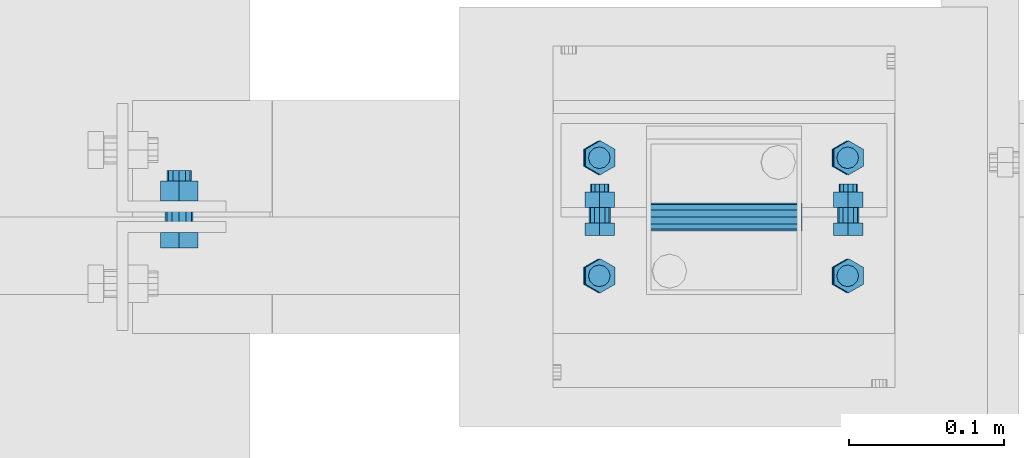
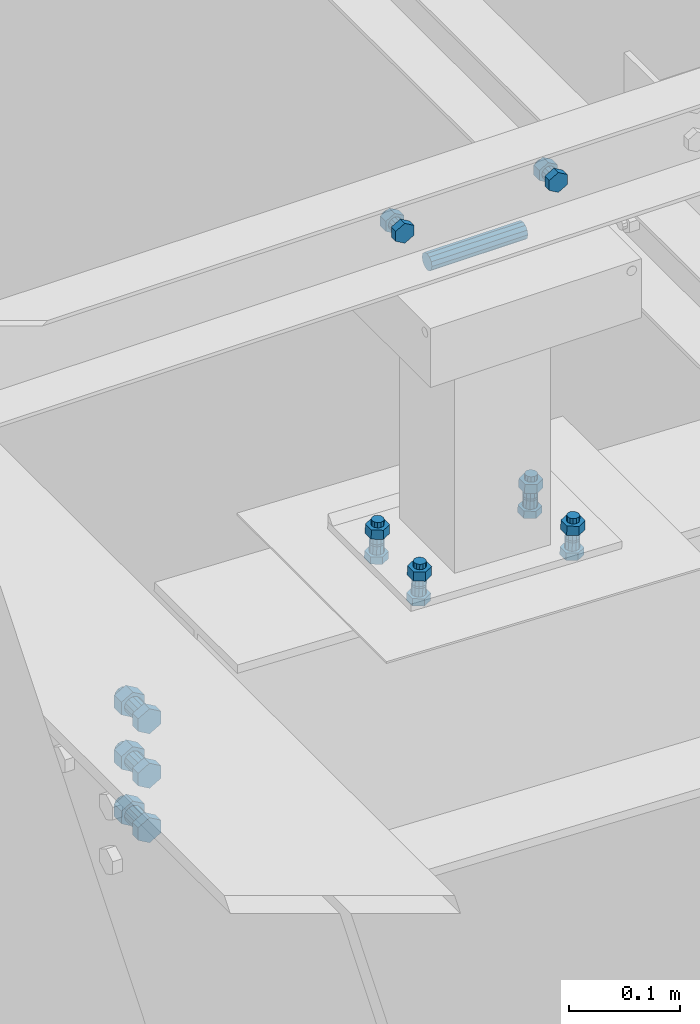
# One storey, part 168 of 3134: 5 mechanical fasteners, 3 elements without a shape of their own.
"""IFC2X3 building model written with IfcOpenShell, lengths in millimetres."""

from ifc_helpers import new_model, si_unit, frame, origin_with_axes, place, context, subcontext, project, spatial, faceted_brep, source, transform, mapped, material, type_object, element, aggregate, save


model = new_model("IFC2X3")

# Units and contexts
model_context = context("Model", 3, precision=1e-05, world=origin_with_axes())
body_context = subcontext(model_context, "Body", "Model", "MODEL_VIEW")
ifc_project = project(units=[si_unit("LENGTHUNIT", "METRE", prefix="MILLI"), si_unit("AREAUNIT", "SQUARE_METRE"), si_unit("VOLUMEUNIT", "CUBIC_METRE"), si_unit("MASSUNIT", "GRAM", prefix="KILO"), si_unit("TIMEUNIT", "SECOND"), si_unit("PLANEANGLEUNIT", "RADIAN"), si_unit("SOLIDANGLEUNIT", "STERADIAN"), si_unit("THERMODYNAMICTEMPERATUREUNIT", "DEGREE_CELSIUS"), si_unit("LUMINOUSINTENSITYUNIT", "LUMEN")], contexts=[model_context])

# Site, building, storey
site_placement = place(None, origin_with_axes())
site = spatial("IfcSite", under=ifc_project, at=site_placement, CompositionType="ELEMENT")
building_placement = place(site_placement, origin_with_axes())
building = spatial("IfcBuilding", under=site, at=building_placement, Name="Undefined", CompositionType="ELEMENT")
storey_placement = place(building_placement, origin_with_axes())
storey = spatial("IfcBuildingStorey", under=building, at=storey_placement, Name="Undefined", CompositionType="ELEMENT", Elevation=0.0)

# Assembly, mechanical fastener
assembly_1_placement = place(storey_placement, origin_with_axes())
assembly_1 = element("IfcElementAssembly", 1, at=assembly_1_placement, inside=storey, AssemblyPlace="NOTDEFINED", PredefinedType="RIGID_FRAME")
ifc_material = material(Name="8.8")
mechanical_fastener_type = type_object("IfcMechanicalFastenerType", Name="Bolt assembly")
shared_shape_1 = source(origin_with_axes(), body_context, "Body", "Brep", [
    faceted_brep([(13.856406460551, -20.0400000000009, 0.0), (6.92820323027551, -20.0400000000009, 12.0), (-6.92820323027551, -20.0400000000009, 12.0), (-13.856406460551, -20.0400000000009, 1.69692038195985e-15), (-6.92820323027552, -20.0400000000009, -12.0), (6.9282032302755, -20.0400000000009, -12.0), (6.9282032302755, -10.0400000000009, -12.0), (-6.92820323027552, -10.0400000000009, -12.0), (-13.856406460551, -10.0400000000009, 1.69692038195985e-15), (-6.92820323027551, -10.0400000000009, 12.0), (6.92820323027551, -10.0400000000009, 12.0), (13.856406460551, -10.0400000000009, 0.0), (8.0, -10.0400000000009, 0.0), (6.92820323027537, -10.0400000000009, 4.00000000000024), (3.99999999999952, -10.0400000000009, 6.92820323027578), (-8.29068785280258e-13, -10.0400000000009, 8.0), (-4.00000000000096, -10.0400000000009, 6.92820323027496), (-6.9282032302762, -10.0400000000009, 3.99999999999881), (-8.0, -10.0400000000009, -1.65813757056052e-12), (-6.92820323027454, -10.0400000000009, -4.00000000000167), (-3.99999999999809, -10.0400000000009, -6.92820323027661), (2.47832457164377e-12, -10.0400000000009, -8.0), (4.00000000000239, -10.0400000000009, -6.92820323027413), (6.92820323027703, -10.0400000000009, -3.99999999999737), (6.92820323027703, 29.9599999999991, -3.99999999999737), (4.00000000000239, 29.9599999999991, -6.92820323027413), (2.47832457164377e-12, 29.9599999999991, -8.0), (-3.99999999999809, 29.9599999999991, -6.92820323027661), (-6.92820323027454, 29.9599999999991, -4.00000000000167), (-8.0, 29.9599999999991, -1.65813757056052e-12), (-6.9282032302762, 29.9599999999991, 3.99999999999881), (-4.00000000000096, 29.9599999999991, 6.92820323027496), (-8.29068785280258e-13, 29.9599999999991, 8.0), (3.99999999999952, 29.9599999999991, 6.92820323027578), (6.92820323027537, 29.9599999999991, 4.00000000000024), (8.0, 29.9599999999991, 0.0), (13.856406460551, 10.0400000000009, 0.0), (6.92820323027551, 10.0400000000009, 12.0), (-6.92820323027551, 10.0400000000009, 12.0), (-13.856406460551, 10.0400000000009, 1.69692038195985e-15), (-6.92820323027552, 10.0400000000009, -12.0), (6.9282032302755, 10.0400000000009, -12.0), (6.9282032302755, 23.0400000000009, -12.0), (-6.92820323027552, 23.0400000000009, -12.0), (-13.856406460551, 23.0400000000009, 1.69692038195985e-15), (-6.92820323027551, 23.0400000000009, 12.0), (6.92820323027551, 23.0400000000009, 12.0), (13.856406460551, 23.0400000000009, 0.0)], [[[0, 1, 2, 3, 4, 5]], [[6, 7, 8, 9, 10, 11]], [[0, 11, 10, 1]], [[1, 10, 9, 2]], [[2, 9, 8, 3]], [[3, 8, 7, 4]], [[4, 7, 6, 5]], [[5, 6, 11, 0]], [[12, 13, 14, 15, 16, 17, 18, 19, 20, 21, 22, 23]], [[24, 25, 26, 27, 28, 29, 30, 31, 32, 33, 34, 35]], [[12, 35, 34, 13]], [[13, 34, 33, 14]], [[14, 33, 32, 15]], [[15, 32, 31, 16]], [[16, 31, 30, 17]], [[17, 30, 29, 18]], [[18, 29, 28, 19]], [[19, 28, 27, 20]], [[20, 27, 26, 21]], [[21, 26, 25, 22]], [[22, 25, 24, 23]], [[23, 24, 35, 12]], [[36, 37, 38, 39, 40, 41]], [[42, 43, 44, 45, 46, 47]], [[36, 47, 46, 37]], [[37, 46, 45, 38]], [[38, 45, 44, 39]], [[39, 44, 43, 40]], [[40, 43, 42, 41]], [[41, 42, 47, 36]]]),
    faceted_brep([(9.0, -3.04999995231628, 0.0), (7.79422863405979, -3.04999995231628, 4.50000000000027), (4.49999999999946, -3.04999995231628, 7.79422863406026), (-9.3270238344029e-13, -3.04999995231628, 9.0), (-4.50000000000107, -3.04999995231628, 7.79422863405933), (-7.79422863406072, -3.04999995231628, 4.49999999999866), (-9.0, -3.04999995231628, -1.86540476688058e-12), (-7.79422863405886, -3.04999995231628, -4.50000000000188), (-4.49999999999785, -3.04999995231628, -7.79422863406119), (2.78811514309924e-12, -3.04999995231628, -9.0), (4.50000000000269, -3.04999995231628, -7.7942286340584), (7.79422863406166, -3.04999995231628, -4.49999999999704), (7.79422863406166, 3.04999995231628, -4.49999999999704), (4.50000000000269, 3.04999995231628, -7.7942286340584), (2.78811514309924e-12, 3.04999995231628, -9.0), (-4.49999999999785, 3.04999995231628, -7.79422863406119), (-7.79422863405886, 3.04999995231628, -4.50000000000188), (-9.0, 3.04999995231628, -1.86540476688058e-12), (-7.79422863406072, 3.04999995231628, 4.49999999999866), (-4.50000000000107, 3.04999995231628, 7.79422863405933), (-9.3270238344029e-13, 3.04999995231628, 9.0), (4.49999999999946, 3.04999995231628, 7.79422863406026), (7.79422863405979, 3.04999995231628, 4.50000000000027), (9.0, 3.04999995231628, 0.0), (9.0, -9.94000000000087, 0.0), (7.79422863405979, -9.94000000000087, 4.50000000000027), (4.49999999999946, -9.94000000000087, 7.79422863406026), (-9.3270238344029e-13, -9.94000000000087, 9.0), (-4.50000000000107, -9.94000000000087, 7.79422863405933), (-7.79422863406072, -9.94000000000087, 4.49999999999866), (-9.0, -9.94000000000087, -1.86540476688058e-12), (-7.79422863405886, -9.94000000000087, -4.50000000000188), (-4.49999999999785, -9.94000000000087, -7.79422863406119), (2.78811514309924e-12, -9.94000000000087, -9.0), (4.50000000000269, -9.94000000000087, -7.7942286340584), (7.79422863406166, -9.94000000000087, -4.49999999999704), (7.79422863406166, -2.94000000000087, -4.49999999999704), (4.50000000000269, -2.94000000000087, -7.7942286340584), (2.78811514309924e-12, -2.94000000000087, -9.0), (-4.49999999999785, -2.94000000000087, -7.79422863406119), (-7.79422863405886, -2.94000000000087, -4.50000000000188), (-9.0, -2.94000000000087, -1.86540476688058e-12), (-7.79422863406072, -2.94000000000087, 4.49999999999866), (-4.50000000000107, -2.94000000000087, 7.79422863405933), (-9.3270238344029e-13, -2.94000000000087, 9.0), (4.49999999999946, -2.94000000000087, 7.79422863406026), (7.79422863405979, -2.94000000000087, 4.50000000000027), (9.0, -2.94000000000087, 0.0), (9.0, 2.94000000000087, 0.0), (7.79422863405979, 2.94000000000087, 4.50000000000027), (4.49999999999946, 2.94000000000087, 7.79422863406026), (-9.3270238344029e-13, 2.94000000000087, 9.0), (-4.50000000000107, 2.94000000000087, 7.79422863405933), (-7.79422863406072, 2.94000000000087, 4.49999999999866), (-9.0, 2.94000000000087, -1.86540476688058e-12), (-7.79422863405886, 2.94000000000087, -4.50000000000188), (-4.49999999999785, 2.94000000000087, -7.79422863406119), (2.78811514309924e-12, 2.94000000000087, -9.0), (4.50000000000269, 2.94000000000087, -7.7942286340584), (7.79422863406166, 2.94000000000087, -4.49999999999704), (7.79422863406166, 10.0400000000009, -4.49999999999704), (4.50000000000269, 10.0400000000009, -7.7942286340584), (2.78811514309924e-12, 10.0400000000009, -9.0), (-4.49999999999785, 10.0400000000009, -7.79422863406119), (-7.79422863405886, 10.0400000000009, -4.50000000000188), (-9.0, 10.0400000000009, -1.86540476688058e-12), (-7.79422863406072, 10.0400000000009, 4.49999999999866), (-4.50000000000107, 10.0400000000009, 7.79422863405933), (-9.3270238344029e-13, 10.0400000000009, 9.0), (4.49999999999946, 10.0400000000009, 7.79422863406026), (7.79422863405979, 10.0400000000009, 4.50000000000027), (9.0, 10.0400000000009, 0.0)], [[[0, 1, 2, 3, 4, 5, 6, 7, 8, 9, 10, 11]], [[12, 13, 14, 15, 16, 17, 18, 19, 20, 21, 22, 23]], [[0, 23, 22, 1]], [[1, 22, 21, 2]], [[2, 21, 20, 3]], [[3, 20, 19, 4]], [[4, 19, 18, 5]], [[5, 18, 17, 6]], [[6, 17, 16, 7]], [[7, 16, 15, 8]], [[8, 15, 14, 9]], [[9, 14, 13, 10]], [[10, 13, 12, 11]], [[11, 12, 23, 0]], [[24, 25, 26, 27, 28, 29, 30, 31, 32, 33, 34, 35]], [[36, 37, 38, 39, 40, 41, 42, 43, 44, 45, 46, 47]], [[24, 47, 46, 25]], [[25, 46, 45, 26]], [[26, 45, 44, 27]], [[27, 44, 43, 28]], [[28, 43, 42, 29]], [[29, 42, 41, 30]], [[30, 41, 40, 31]], [[31, 40, 39, 32]], [[32, 39, 38, 33]], [[33, 38, 37, 34]], [[34, 37, 36, 35]], [[35, 36, 47, 24]], [[48, 49, 50, 51, 52, 53, 54, 55, 56, 57, 58, 59]], [[60, 61, 62, 63, 64, 65, 66, 67, 68, 69, 70, 71]], [[48, 71, 70, 49]], [[49, 70, 69, 50]], [[50, 69, 68, 51]], [[51, 68, 67, 52]], [[52, 67, 66, 53]], [[53, 66, 65, 54]], [[54, 65, 64, 55]], [[55, 64, 63, 56]], [[56, 63, 62, 57]], [[57, 62, 61, 58]], [[58, 61, 60, 59]], [[59, 60, 71, 48]]]),
])
mechanical_fastener_1_placement = place(assembly_1_placement, frame((44.2936480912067, 37581.25, 3841.86727512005), z_axis=(-1.0, 0.0, 0.0), x_axis=(0.0, 0.0, 1.0)))
mechanical_fastener_1 = element("IfcMechanicalFastener", 2, at=mechanical_fastener_1_placement, type_object=mechanical_fastener_type, material=ifc_material, Name="Bolt assembly", NominalDiameter=16.0, NominalLength=40.0, context=body_context, shape_type="MappedRepresentation", body=[
    mapped(shared_shape_1, transform((0.0, 0.0, 0.0))),
    mapped(shared_shape_1, transform((59.9999999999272, 0.0, 5.40239852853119e-10))),
    mapped(shared_shape_1, transform((120.0, 0.0, 0.0))),
])
aggregate(assembly_1, [mechanical_fastener_1])

assembly_2_placement = place(storey_placement, origin_with_axes())
assembly_2 = element("IfcElementAssembly", 3, at=assembly_2_placement, inside=storey, AssemblyPlace="NOTDEFINED", PredefinedType="RIGID_FRAME")
shared_shape_2 = source(origin_with_axes(), body_context, "Body", "Brep", [
    faceted_brep([(10.9696551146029, -4.19432770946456, 0.0), (5.48482755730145, -4.19432770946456, 9.5), (-5.48482755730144, -4.19432770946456, 9.5), (-10.9696551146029, -4.19432770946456, 1.34339530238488e-15), (-5.48482755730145, -4.19432770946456, -9.5), (5.48482755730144, -4.19432770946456, -9.50000000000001), (5.48482755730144, 3.80567229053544, -9.50000000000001), (-5.48482755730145, 3.80567229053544, -9.5), (-10.9696551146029, 3.80567229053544, 1.34339530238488e-15), (-5.48482755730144, 3.80567229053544, 9.5), (5.48482755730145, 3.80567229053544, 9.5), (10.9696551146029, 3.80567229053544, 0.0), (6.0, 3.80567229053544, 0.0), (5.19615242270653, 3.80567229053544, 3.00000000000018), (2.99999999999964, 3.80567229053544, 5.19615242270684), (-6.21801588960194e-13, 3.80567229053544, 6.0), (-3.00000000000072, 3.80567229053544, 5.19615242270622), (-5.19615242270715, 3.80567229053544, 2.9999999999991), (-6.0, 3.80567229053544, -1.24360317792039e-12), (-5.19615242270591, 3.80567229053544, -3.00000000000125), (-2.99999999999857, 3.80567229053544, -5.19615242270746), (1.85874342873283e-12, 3.80567229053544, -6.0), (3.00000000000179, 3.80567229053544, -5.1961524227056), (5.19615242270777, 3.80567229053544, -2.99999999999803), (5.19615242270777, 38.8056722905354, -2.99999999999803), (3.00000000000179, 38.8056722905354, -5.1961524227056), (1.85874342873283e-12, 38.8056722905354, -6.0), (-2.99999999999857, 38.8056722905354, -5.19615242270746), (-5.19615242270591, 38.8056722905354, -3.00000000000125), (-6.0, 38.8056722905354, -1.24360317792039e-12), (-5.19615242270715, 38.8056722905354, 2.9999999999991), (-3.00000000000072, 38.8056722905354, 5.19615242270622), (-6.21801588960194e-13, 38.8056722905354, 6.0), (2.99999999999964, 38.8056722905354, 5.19615242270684), (5.19615242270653, 38.8056722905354, 3.00000000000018), (6.0, 38.8056722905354, 0.0), (10.9696551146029, 23.0139082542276, 0.0), (5.48482755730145, 23.0139082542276, 9.5), (-5.48482755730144, 23.0139082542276, 9.5), (-10.9696551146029, 23.0139082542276, 1.34339530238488e-15), (-5.48482755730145, 23.0139082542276, -9.5), (5.48482755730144, 23.0139082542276, -9.50000000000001), (5.48482755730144, 33.0139082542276, -9.50000000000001), (-5.48482755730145, 33.0139082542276, -9.5), (-10.9696551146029, 33.0139082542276, 1.34339530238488e-15), (-5.48482755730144, 33.0139082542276, 9.5), (5.48482755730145, 33.0139082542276, 9.5), (10.9696551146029, 33.0139082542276, 0.0)], [[[0, 1, 2, 3, 4, 5]], [[6, 7, 8, 9, 10, 11]], [[0, 11, 10, 1]], [[1, 10, 9, 2]], [[2, 9, 8, 3]], [[3, 8, 7, 4]], [[4, 7, 6, 5]], [[5, 6, 11, 0]], [[12, 13, 14, 15, 16, 17, 18, 19, 20, 21, 22, 23]], [[24, 25, 26, 27, 28, 29, 30, 31, 32, 33, 34, 35]], [[12, 35, 34, 13]], [[13, 34, 33, 14]], [[14, 33, 32, 15]], [[15, 32, 31, 16]], [[16, 31, 30, 17]], [[17, 30, 29, 18]], [[18, 29, 28, 19]], [[19, 28, 27, 20]], [[20, 27, 26, 21]], [[21, 26, 25, 22]], [[22, 25, 24, 23]], [[23, 24, 35, 12]], [[36, 37, 38, 39, 40, 41]], [[42, 43, 44, 45, 46, 47]], [[36, 47, 46, 37]], [[37, 46, 45, 38]], [[38, 45, 44, 39]], [[39, 44, 43, 40]], [[40, 43, 42, 41]], [[41, 42, 47, 36]]]),
    faceted_brep([(7.0, 3.90567229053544, 0.0), (6.06217782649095, 3.90567229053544, 3.50000000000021), (3.49999999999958, 3.90567229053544, 6.06217782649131), (-7.25435187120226e-13, 3.90567229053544, 7.0), (-3.50000000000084, 3.90567229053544, 6.06217782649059), (-6.06217782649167, 3.90567229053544, 3.49999999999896), (-7.0, 3.90567229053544, -1.45087037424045e-12), (-6.06217782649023, 3.90567229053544, -3.50000000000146), (-3.49999999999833, 3.90567229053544, -6.06217782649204), (2.1685340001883e-12, 3.90567229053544, -7.0), (3.50000000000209, 3.90567229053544, -6.06217782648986), (6.0621778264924, 3.90567229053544, -3.4999999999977), (6.0621778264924, 13.1056721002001, -3.4999999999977), (3.50000000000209, 13.1056721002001, -6.06217782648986), (2.1685340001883e-12, 13.1056721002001, -7.0), (-3.49999999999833, 13.1056721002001, -6.06217782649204), (-6.06217782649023, 13.1056721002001, -3.50000000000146), (-7.0, 13.1056721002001, -1.45087037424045e-12), (-6.06217782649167, 13.1056721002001, 3.49999999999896), (-3.50000000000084, 13.1056721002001, 6.06217782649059), (-7.25435187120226e-13, 13.1056721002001, 7.0), (3.49999999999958, 13.1056721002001, 6.06217782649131), (6.06217782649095, 13.1056721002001, 3.50000000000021), (7.0, 13.1056721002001, 0.0), (7.0, 14.9139082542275, 0.0), (6.06217782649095, 14.9139082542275, 3.50000000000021), (3.49999999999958, 14.9139082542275, 6.06217782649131), (-7.25435187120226e-13, 14.9139082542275, 7.0), (-3.50000000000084, 14.9139082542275, 6.06217782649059), (-6.06217782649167, 14.9139082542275, 3.49999999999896), (-7.0, 14.9139082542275, -1.45087037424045e-12), (-6.06217782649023, 14.9139082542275, -3.50000000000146), (-3.49999999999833, 14.9139082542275, -6.06217782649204), (2.1685340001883e-12, 14.9139082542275, -7.0), (3.50000000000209, 14.9139082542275, -6.06217782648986), (6.0621778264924, 14.9139082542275, -3.4999999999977), (6.0621778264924, 23.0139082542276, -3.4999999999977), (3.50000000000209, 23.0139082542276, -6.06217782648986), (2.1685340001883e-12, 23.0139082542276, -7.0), (-3.49999999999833, 23.0139082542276, -6.06217782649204), (-6.06217782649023, 23.0139082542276, -3.50000000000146), (-7.0, 23.0139082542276, -1.45087037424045e-12), (-6.06217782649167, 23.0139082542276, 3.49999999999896), (-3.50000000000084, 23.0139082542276, 6.06217782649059), (-7.25435187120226e-13, 23.0139082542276, 7.0), (3.49999999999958, 23.0139082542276, 6.06217782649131), (6.06217782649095, 23.0139082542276, 3.50000000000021), (7.0, 23.0139082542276, 0.0)], [[[0, 1, 2, 3, 4, 5, 6, 7, 8, 9, 10, 11]], [[12, 13, 14, 15, 16, 17, 18, 19, 20, 21, 22, 23]], [[0, 23, 22, 1]], [[1, 22, 21, 2]], [[2, 21, 20, 3]], [[3, 20, 19, 4]], [[4, 19, 18, 5]], [[5, 18, 17, 6]], [[6, 17, 16, 7]], [[7, 16, 15, 8]], [[8, 15, 14, 9]], [[9, 14, 13, 10]], [[10, 13, 12, 11]], [[11, 12, 23, 0]], [[24, 25, 26, 27, 28, 29, 30, 31, 32, 33, 34, 35]], [[36, 37, 38, 39, 40, 41, 42, 43, 44, 45, 46, 47]], [[24, 47, 46, 25]], [[25, 46, 45, 26]], [[26, 45, 44, 27]], [[27, 44, 43, 28]], [[28, 43, 42, 29]], [[29, 42, 41, 30]], [[30, 41, 40, 31]], [[31, 40, 39, 32]], [[32, 39, 38, 33]], [[33, 38, 37, 34]], [[34, 37, 36, 35]], [[35, 36, 47, 24]]]),
])
mechanical_fastener_2_placement = place(assembly_2_placement, frame((394.193176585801, 37619.2499999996, 4013.19000668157), z_axis=(-0.999387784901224, 0.0, 0.0349865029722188), x_axis=(0.0, -1.0, 0.0)))
mechanical_fastener_2 = element("IfcMechanicalFastener", 4, at=mechanical_fastener_2_placement, type_object=mechanical_fastener_type, material=ifc_material, Name="Bolt assembly", NominalDiameter=12.0, NominalLength=35.0, context=body_context, shape_type="MappedRepresentation", body=[
    mapped(shared_shape_2, transform((0.0, -5.32963895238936e-10, -79.9999999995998))),
    mapped(shared_shape_2, transform((76.0, -5.32963895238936e-10, -79.9999999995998))),
    mapped(shared_shape_2, transform((0.0, 5.3114490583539e-10, 79.9999999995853))),
    mapped(shared_shape_2, transform((76.0, 5.3114490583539e-10, 79.9999999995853))),
])

assembly_3_placement = place(storey_placement, origin_with_axes())
assembly_3 = element("IfcElementAssembly", 5, at=assembly_3_placement, inside=storey, AssemblyPlace="NOTDEFINED", PredefinedType="RIGID_FRAME")
shared_shape_3 = source(origin_with_axes(), body_context, "Body", "Brep", [
    faceted_brep([(7.0, 13.0000253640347, 0.0), (6.06217782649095, 13.0000253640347, 3.50000000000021), (3.49999999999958, 13.0000253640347, 6.06217782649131), (-7.25435187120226e-13, 13.0000253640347, 7.0), (-3.50000000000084, 13.0000253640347, 6.06217782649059), (-6.06217782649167, 13.0000253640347, 3.49999999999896), (-7.0, 13.0000253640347, -1.45087037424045e-12), (-6.06217782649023, 13.0000253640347, -3.50000000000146), (-3.49999999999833, 13.0000253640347, -6.06217782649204), (2.1685340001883e-12, 13.0000253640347, -7.0), (3.50000000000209, 13.0000253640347, -6.06217782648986), (6.0621778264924, 13.0000253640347, -3.4999999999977), (6.0621778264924, 15.0999999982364, -3.4999999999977), (3.50000000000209, 15.0999999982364, -6.06217782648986), (2.1685340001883e-12, 15.0999999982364, -7.0), (-3.49999999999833, 15.0999999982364, -6.06217782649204), (-6.06217782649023, 15.0999999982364, -3.50000000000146), (-7.0, 15.0999999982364, -1.45087037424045e-12), (-6.06217782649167, 15.0999999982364, 3.49999999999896), (-3.50000000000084, 15.0999999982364, 6.06217782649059), (-7.25435187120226e-13, 15.0999999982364, 7.0), (3.49999999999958, 15.0999999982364, 6.06217782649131), (6.06217782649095, 15.0999999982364, 3.50000000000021), (7.0, 15.0999999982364, 0.0)], [[[0, 1, 2, 3, 4, 5, 6, 7, 8, 9, 10, 11]], [[12, 13, 14, 15, 16, 17, 18, 19, 20, 21, 22, 23]], [[0, 23, 22, 1]], [[1, 22, 21, 2]], [[2, 21, 20, 3]], [[3, 20, 19, 4]], [[4, 19, 18, 5]], [[5, 18, 17, 6]], [[6, 17, 16, 7]], [[7, 16, 15, 8]], [[8, 15, 14, 9]], [[9, 14, 13, 10]], [[10, 13, 12, 11]], [[11, 12, 23, 0]]]),
])
mechanical_fastener_3_placement = place(assembly_3_placement, frame((394.193176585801, 37619.2499999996, 4013.19000668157), z_axis=(-0.999387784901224, 0.0, 0.0349865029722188), x_axis=(0.0, -1.0, 0.0)))
mechanical_fastener_3 = element("IfcMechanicalFastener", 6, at=mechanical_fastener_3_placement, type_object=mechanical_fastener_type, material=ifc_material, Name="Bolt assembly", NominalDiameter=12.0, NominalLength=2.0, context=body_context, shape_type="MappedRepresentation", body=[
    mapped(shared_shape_3, transform((0.0, -5.32963895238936e-10, -79.9999999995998))),
    mapped(shared_shape_3, transform((76.0, -5.32963895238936e-10, -79.9999999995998))),
    mapped(shared_shape_3, transform((0.0, 5.3114490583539e-10, 79.9999999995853))),
    mapped(shared_shape_3, transform((76.0, 5.3114490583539e-10, 79.9999999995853))),
])
aggregate(assembly_3, [mechanical_fastener_3])

# Mechanical fastener
shared_shape_4 = source(origin_with_axes(), body_context, "Body", "Brep", [
    faceted_brep([(9.0, -50.0, 0.0), (7.79422863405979, -50.0, 4.50000000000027), (4.49999999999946, -50.0, 7.79422863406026), (-9.3270238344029e-13, -50.0, 9.0), (-4.50000000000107, -50.0, 7.79422863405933), (-7.79422863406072, -50.0, 4.49999999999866), (-9.0, -50.0, -1.86540476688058e-12), (-7.79422863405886, -50.0, -4.50000000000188), (-4.49999999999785, -50.0, -7.79422863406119), (2.78811514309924e-12, -50.0, -9.0), (4.50000000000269, -50.0, -7.7942286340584), (7.79422863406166, -50.0, -4.49999999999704), (7.79422863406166, 50.1, -4.49999999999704), (4.50000000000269, 50.1, -7.7942286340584), (2.78811514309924e-12, 50.1, -9.0), (-4.49999999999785, 50.1, -7.79422863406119), (-7.79422863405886, 50.1, -4.50000000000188), (-9.0, 50.1, -1.86540476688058e-12), (-7.79422863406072, 50.1, 4.49999999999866), (-4.50000000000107, 50.1, 7.79422863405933), (-9.3270238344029e-13, 50.1, 9.0), (4.49999999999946, 50.1, 7.79422863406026), (7.79422863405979, 50.1, 4.50000000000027), (9.0, 50.1, 0.0)], [[[0, 1, 2, 3, 4, 5, 6, 7, 8, 9, 10, 11]], [[12, 13, 14, 15, 16, 17, 18, 19, 20, 21, 22, 23]], [[0, 23, 22, 1]], [[1, 22, 21, 2]], [[2, 21, 20, 3]], [[3, 20, 19, 4]], [[4, 19, 18, 5]], [[5, 18, 17, 6]], [[6, 17, 16, 7]], [[7, 16, 15, 8]], [[8, 15, 14, 9]], [[9, 14, 13, 10]], [[10, 13, 12, 11]], [[11, 12, 23, 0]]]),
])
mechanical_fastener_4_placement = place(assembly_2_placement, frame((395.0, 37581.25, 4351.0), z_axis=(0.0, 1.0, 0.0), x_axis=(0.0, 0.0, 1.0)))
mechanical_fastener_4 = element("IfcMechanicalFastener", 7, at=mechanical_fastener_4_placement, type_object=mechanical_fastener_type, material=ifc_material, Name="Bolt assembly", NominalDiameter=16.0, NominalLength=100.0, context=body_context, shape_type="MappedRepresentation", body=[
    mapped(shared_shape_4, transform((0.0, 0.0, 0.0))),
])

shared_shape_5 = source(origin_with_axes(), body_context, "Body", "Brep", [
    faceted_brep([(10.9696551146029, -12.0, 0.0), (5.48482755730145, -12.0, 9.5), (-5.48482755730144, -12.0, 9.5), (-10.9696551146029, -12.0, 1.34339530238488e-15), (-5.48482755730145, -12.0, -9.5), (5.48482755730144, -12.0, -9.50000000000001), (5.48482755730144, -4.0, -9.50000000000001), (-5.48482755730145, -4.0, -9.5), (-10.9696551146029, -4.0, 1.34339530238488e-15), (-5.48482755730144, -4.0, 9.5), (5.48482755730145, -4.0, 9.5), (10.9696551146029, -4.0, 0.0), (6.0, -4.0, 0.0), (5.19615242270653, -4.0, 3.00000000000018), (2.99999999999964, -4.0, 5.19615242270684), (-6.21801588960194e-13, -4.0, 6.0), (-3.00000000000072, -4.0, 5.19615242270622), (-5.19615242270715, -4.0, 2.9999999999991), (-6.0, -4.0, -1.24360317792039e-12), (-5.19615242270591, -4.0, -3.00000000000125), (-2.99999999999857, -4.0, -5.19615242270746), (1.85874342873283e-12, -4.0, -6.0), (3.00000000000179, -4.0, -5.1961524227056), (5.19615242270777, -4.0, -2.99999999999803), (5.19615242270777, 21.0, -2.99999999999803), (3.00000000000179, 21.0, -5.1961524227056), (1.85874342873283e-12, 21.0, -6.0), (-2.99999999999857, 21.0, -5.19615242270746), (-5.19615242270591, 21.0, -3.00000000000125), (-6.0, 21.0, -1.24360317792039e-12), (-5.19615242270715, 21.0, 2.9999999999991), (-3.00000000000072, 21.0, 5.19615242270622), (-6.21801588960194e-13, 21.0, 6.0), (2.99999999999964, 21.0, 5.19615242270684), (5.19615242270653, 21.0, 3.00000000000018), (6.0, 21.0, 0.0), (10.9696551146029, 6.00000000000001, 0.0), (5.48482755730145, 6.00000000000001, 9.5), (-5.48482755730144, 6.00000000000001, 9.5), (-10.9696551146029, 6.00000000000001, 1.34339530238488e-15), (-5.48482755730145, 6.00000000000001, -9.5), (5.48482755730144, 6.00000000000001, -9.50000000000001), (5.48482755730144, 16.0, -9.50000000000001), (-5.48482755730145, 16.0, -9.5), (-10.9696551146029, 16.0, 1.34339530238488e-15), (-5.48482755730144, 16.0, 9.5), (5.48482755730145, 16.0, 9.5), (10.9696551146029, 16.0, 0.0)], [[[0, 1, 2, 3, 4, 5]], [[6, 7, 8, 9, 10, 11]], [[0, 11, 10, 1]], [[1, 10, 9, 2]], [[2, 9, 8, 3]], [[3, 8, 7, 4]], [[4, 7, 6, 5]], [[5, 6, 11, 0]], [[12, 13, 14, 15, 16, 17, 18, 19, 20, 21, 22, 23]], [[24, 25, 26, 27, 28, 29, 30, 31, 32, 33, 34, 35]], [[12, 35, 34, 13]], [[13, 34, 33, 14]], [[14, 33, 32, 15]], [[15, 32, 31, 16]], [[16, 31, 30, 17]], [[17, 30, 29, 18]], [[18, 29, 28, 19]], [[19, 28, 27, 20]], [[20, 27, 26, 21]], [[21, 26, 25, 22]], [[22, 25, 24, 23]], [[23, 24, 35, 12]], [[36, 37, 38, 39, 40, 41]], [[42, 43, 44, 45, 46, 47]], [[36, 47, 46, 37]], [[37, 46, 45, 38]], [[38, 45, 44, 39]], [[39, 44, 43, 40]], [[40, 43, 42, 41]], [[41, 42, 47, 36]]]),
    faceted_brep([(7.0, -3.9, 0.0), (6.06217782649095, -3.9, 3.50000000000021), (3.49999999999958, -3.9, 6.06217782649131), (-7.25435187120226e-13, -3.9, 7.0), (-3.50000000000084, -3.9, 6.06217782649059), (-6.06217782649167, -3.9, 3.49999999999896), (-7.0, -3.9, -1.45087037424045e-12), (-6.06217782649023, -3.9, -3.50000000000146), (-3.49999999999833, -3.9, -6.06217782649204), (2.1685340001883e-12, -3.9, -7.0), (3.50000000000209, -3.9, -6.06217782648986), (6.0621778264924, -3.9, -3.4999999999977), (6.0621778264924, 0.0999999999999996, -3.4999999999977), (3.50000000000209, 0.0999999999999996, -6.06217782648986), (2.1685340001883e-12, 0.0999999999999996, -7.0), (-3.49999999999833, 0.0999999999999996, -6.06217782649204), (-6.06217782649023, 0.0999999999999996, -3.50000000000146), (-7.0, 0.0999999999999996, -1.45087037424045e-12), (-6.06217782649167, 0.0999999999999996, 3.49999999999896), (-3.50000000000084, 0.0999999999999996, 6.06217782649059), (-7.25435187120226e-13, 0.0999999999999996, 7.0), (3.49999999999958, 0.0999999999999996, 6.06217782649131), (6.06217782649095, 0.0999999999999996, 3.50000000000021), (7.0, 0.0999999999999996, 0.0), (7.0, -0.1, 0.0), (6.06217782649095, -0.1, 3.50000000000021), (3.49999999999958, -0.1, 6.06217782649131), (-7.25435187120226e-13, -0.1, 7.0), (-3.50000000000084, -0.1, 6.06217782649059), (-6.06217782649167, -0.1, 3.49999999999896), (-7.0, -0.1, -1.45087037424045e-12), (-6.06217782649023, -0.1, -3.50000000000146), (-3.49999999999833, -0.1, -6.06217782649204), (2.1685340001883e-12, -0.1, -7.0), (3.50000000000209, -0.1, -6.06217782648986), (6.0621778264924, -0.1, -3.4999999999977), (6.0621778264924, 6.00000000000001, -3.4999999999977), (3.50000000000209, 6.00000000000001, -6.06217782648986), (2.1685340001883e-12, 6.00000000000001, -7.0), (-3.49999999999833, 6.00000000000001, -6.06217782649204), (-6.06217782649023, 6.00000000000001, -3.50000000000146), (-7.0, 6.00000000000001, -1.45087037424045e-12), (-6.06217782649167, 6.00000000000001, 3.49999999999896), (-3.50000000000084, 6.00000000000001, 6.06217782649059), (-7.25435187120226e-13, 6.00000000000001, 7.0), (3.49999999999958, 6.00000000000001, 6.06217782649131), (6.06217782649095, 6.00000000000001, 3.50000000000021), (7.0, 6.00000000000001, 0.0)], [[[0, 1, 2, 3, 4, 5, 6, 7, 8, 9, 10, 11]], [[12, 13, 14, 15, 16, 17, 18, 19, 20, 21, 22, 23]], [[0, 23, 22, 1]], [[1, 22, 21, 2]], [[2, 21, 20, 3]], [[3, 20, 19, 4]], [[4, 19, 18, 5]], [[5, 18, 17, 6]], [[6, 17, 16, 7]], [[7, 16, 15, 8]], [[8, 15, 14, 9]], [[9, 14, 13, 10]], [[10, 13, 12, 11]], [[11, 12, 23, 0]], [[24, 25, 26, 27, 28, 29, 30, 31, 32, 33, 34, 35]], [[36, 37, 38, 39, 40, 41, 42, 43, 44, 45, 46, 47]], [[24, 47, 46, 25]], [[25, 46, 45, 26]], [[26, 45, 44, 27]], [[27, 44, 43, 28]], [[28, 43, 42, 29]], [[29, 42, 41, 30]], [[30, 41, 40, 31]], [[31, 40, 39, 32]], [[32, 39, 38, 33]], [[33, 38, 37, 34]], [[34, 37, 36, 35]], [[35, 36, 47, 24]]]),
])
mechanical_fastener_5_placement = place(assembly_2_placement, frame((394.999950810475, 37581.249683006, 4400.0), z_axis=(1.0, 0.0, 0.0), x_axis=(0.0, 0.0, -1.0)))
mechanical_fastener_5 = element("IfcMechanicalFastener", 8, at=mechanical_fastener_5_placement, type_object=mechanical_fastener_type, material=ifc_material, Name="Bolt assembly", NominalDiameter=12.0, NominalLength=25.0, context=body_context, shape_type="MappedRepresentation", body=[
    mapped(shared_shape_5, transform((0.0, -5.32963895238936e-10, -79.9999999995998))),
    mapped(shared_shape_5, transform((0.0, 5.3114490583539e-10, 79.9999999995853))),
])

aggregate(assembly_2, [mechanical_fastener_2, mechanical_fastener_4, mechanical_fastener_5])

save(model, "model.ifc")
